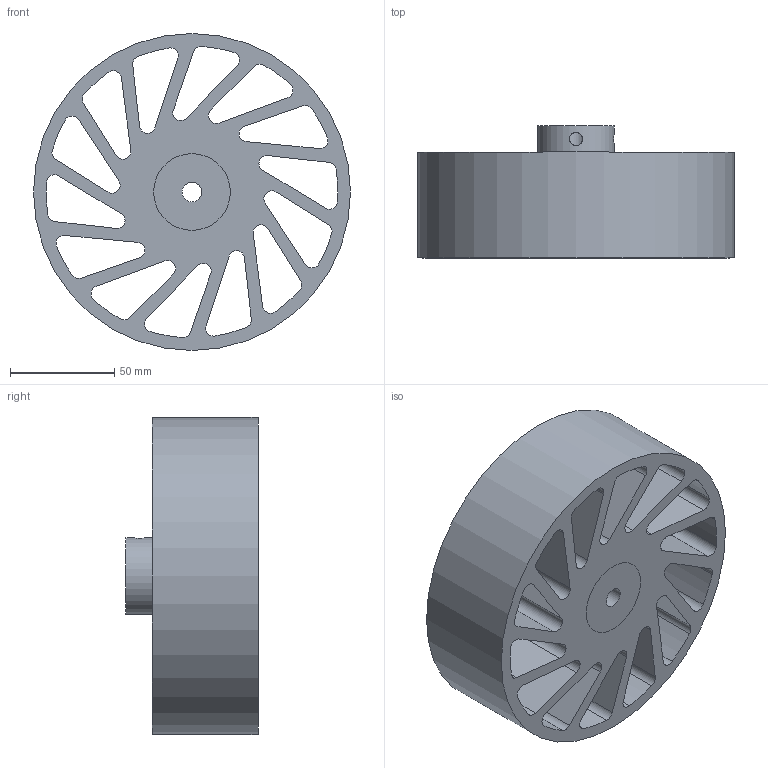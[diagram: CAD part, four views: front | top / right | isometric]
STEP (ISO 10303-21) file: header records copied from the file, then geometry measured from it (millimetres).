
FILE_DESCRIPTION(/* description */ (''),/* implementation_level */ '2;1');
FILE_NAME(/* name */ 'NCW-590-XXX-YYY.stp',/* time_stamp */ '2023-02-02T15:36:49-06:00',/* author */ ('AG'),/* organization */ ('Meridian Laboratory'),/* preprocessor_version */ 'ST-DEVELOPER v18.1',/* originating_system */ 'Autodesk Inventor 2022',/* authorisation */ '');
FILE_SCHEMA (('AUTOMOTIVE_DESIGN { 1 0 10303 214 3 1 1 }'));
Length unit declared in the file: inch
Products named in the file (1): NCW-540
Bounding box: 152.4 x 63.5 x 152.4 mm (x, y, z)
Volume: 527716.9 mm3; surface area: 133997.6 mm2
Topology: 2 solids, 2 shells, 94 faces, 276 edges, 186 vertices
Faces by surface type: cylinder 62, plane 32
Full cylindrical faces by diameter (mm): 6.35 x2, 9.538 x1, 36.83 x2, 152.4 x1
Entity records: 3518 total; most frequent: CARTESIAN_POINT 697, DIRECTION 576, ORIENTED_EDGE 552, EDGE_CURVE 276, AXIS2_PLACEMENT_3D 215, VERTEX_POINT 186, LINE 146, VECTOR 146
